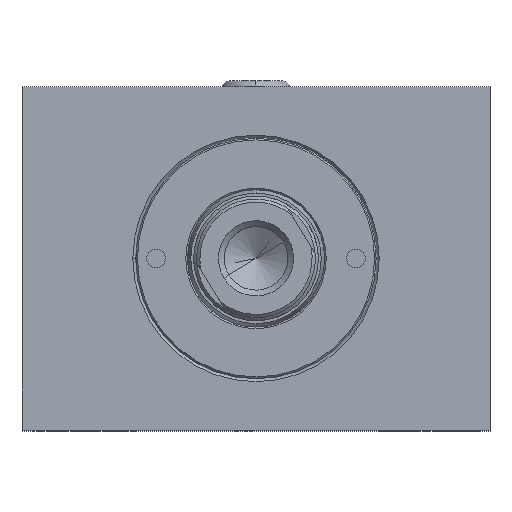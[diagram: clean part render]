
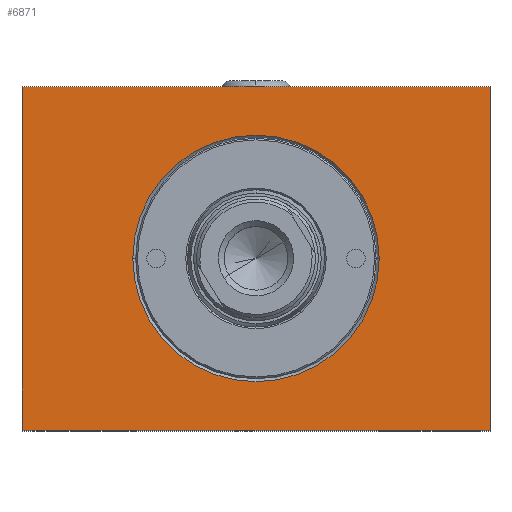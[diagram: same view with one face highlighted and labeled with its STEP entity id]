
A CAD part, top view. The second image highlights one B-rep face of the part: STEP entity #6871.
In plain terms, the highlighted planar face has unit normal (0, 0, 1).
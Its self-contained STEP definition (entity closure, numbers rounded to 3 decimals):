
#250 = CARTESIAN_POINT ( 'NONE',  ( 75., 55., 110. ) ) ;
#388 = CIRCLE ( 'NONE', #9915, 19.75 ) ;
#938 = ORIENTED_EDGE ( 'NONE', *, *, #12351, .T. ) ;
#1060 = DIRECTION ( 'NONE',  ( 0., 0., -1. ) ) ;
#1512 = CARTESIAN_POINT ( 'NONE',  ( 0., 55., 110. ) ) ;
#1961 = EDGE_CURVE ( 'NONE', #13024, #2878, #388, .T. ) ;
#2222 = LINE ( 'NONE', #6192, #8063 ) ;
#2649 = DIRECTION ( 'NONE',  ( 1., 0., 0. ) ) ;
#2878 = VERTEX_POINT ( 'NONE', #10713 ) ;
#2906 = DIRECTION ( 'NONE',  ( -1., 0., 0. ) ) ;
#3245 = CARTESIAN_POINT ( 'NONE',  ( 75., 0., 110. ) ) ;
#4068 = DIRECTION ( 'NONE',  ( 0., -1., 0. ) ) ;
#4168 = DIRECTION ( 'NONE',  ( -1., 0., 0. ) ) ;
#4289 = AXIS2_PLACEMENT_3D ( 'NONE', #8078, #1060, #8162 ) ;
#4925 = VECTOR ( 'NONE', #2906, 1000. ) ;
#5006 = ORIENTED_EDGE ( 'NONE', *, *, #1961, .T. ) ;
#5080 = VECTOR ( 'NONE', #8892, 1000. ) ;
#5091 = DIRECTION ( 'NONE',  ( 0., 0., -1. ) ) ;
#5167 = EDGE_CURVE ( 'NONE', #2878, #13024, #11193, .T. ) ;
#5345 = ORIENTED_EDGE ( 'NONE', *, *, #8995, .T. ) ;
#5361 = VERTEX_POINT ( 'NONE', #1512 ) ;
#5577 = DIRECTION ( 'NONE',  ( 0., 0., -1. ) ) ;
#5650 = CARTESIAN_POINT ( 'NONE',  ( 0., 0., 110. ) ) ;
#6192 = CARTESIAN_POINT ( 'NONE',  ( 0., 0., 110. ) ) ;
#6258 = ORIENTED_EDGE ( 'NONE', *, *, #5167, .T. ) ;
#6478 = VERTEX_POINT ( 'NONE', #9400 ) ;
#6604 = AXIS2_PLACEMENT_3D ( 'NONE', #5650, #5577, #12731 ) ;
#6621 = PLANE ( 'NONE',  #6604 ) ;
#6871 = ADVANCED_FACE ( 'NONE', ( #8449, #10339 ), #6621, .F. ) ;
#7008 = CARTESIAN_POINT ( 'NONE',  ( 0., 55., 110. ) ) ;
#7266 = VERTEX_POINT ( 'NONE', #3245 ) ;
#7772 = EDGE_LOOP ( 'NONE', ( #12129, #938, #5345, #11401 ) ) ;
#7893 = CARTESIAN_POINT ( 'NONE',  ( 57.25, 27.5, 110. ) ) ;
#8031 = LINE ( 'NONE', #10656, #10401 ) ;
#8063 = VECTOR ( 'NONE', #4068, 1000. ) ;
#8078 = CARTESIAN_POINT ( 'NONE',  ( 37.5, 27.5, 110. ) ) ;
#8162 = DIRECTION ( 'NONE',  ( -1., 0., 0. ) ) ;
#8368 = EDGE_CURVE ( 'NONE', #12768, #5361, #8584, .T. ) ;
#8449 = FACE_BOUND ( 'NONE', #12773, .T. ) ;
#8584 = LINE ( 'NONE', #7008, #4925 ) ;
#8892 = DIRECTION ( 'NONE',  ( 0., 1., 0. ) ) ;
#8995 = EDGE_CURVE ( 'NONE', #7266, #12768, #9961, .T. ) ;
#9259 = CARTESIAN_POINT ( 'NONE',  ( 37.5, 27.5, 110. ) ) ;
#9400 = CARTESIAN_POINT ( 'NONE',  ( 0., 0., 110. ) ) ;
#9793 = CARTESIAN_POINT ( 'NONE',  ( 75., 0., 110. ) ) ;
#9915 = AXIS2_PLACEMENT_3D ( 'NONE', #9259, #5091, #4168 ) ;
#9961 = LINE ( 'NONE', #9793, #5080 ) ;
#10339 = FACE_OUTER_BOUND ( 'NONE', #7772, .T. ) ;
#10401 = VECTOR ( 'NONE', #2649, 1000. ) ;
#10458 = EDGE_CURVE ( 'NONE', #5361, #6478, #2222, .T. ) ;
#10656 = CARTESIAN_POINT ( 'NONE',  ( 0., 0., 110. ) ) ;
#10713 = CARTESIAN_POINT ( 'NONE',  ( 17.75, 27.5, 110. ) ) ;
#11193 = CIRCLE ( 'NONE', #4289, 19.75 ) ;
#11401 = ORIENTED_EDGE ( 'NONE', *, *, #8368, .T. ) ;
#12129 = ORIENTED_EDGE ( 'NONE', *, *, #10458, .T. ) ;
#12351 = EDGE_CURVE ( 'NONE', #6478, #7266, #8031, .T. ) ;
#12731 = DIRECTION ( 'NONE',  ( -1., 0., 0. ) ) ;
#12768 = VERTEX_POINT ( 'NONE', #250 ) ;
#12773 = EDGE_LOOP ( 'NONE', ( #5006, #6258 ) ) ;
#13024 = VERTEX_POINT ( 'NONE', #7893 ) ;
